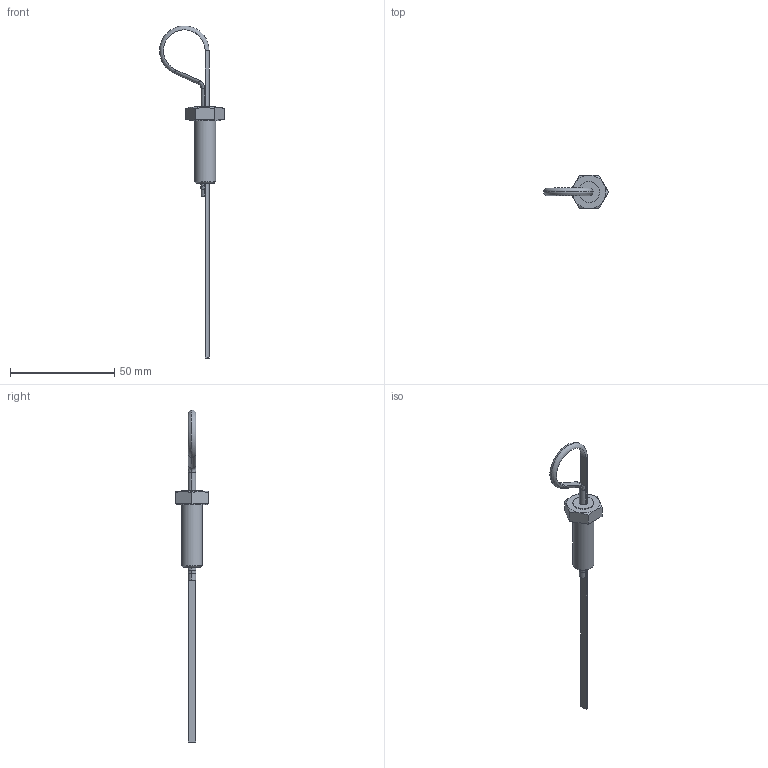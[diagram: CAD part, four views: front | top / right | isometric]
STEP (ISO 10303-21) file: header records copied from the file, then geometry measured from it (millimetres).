
FILE_DESCRIPTION((''),'2;1');
FILE_NAME('U:\Users\a.heinl\12170300.stp','2013-05-23T08:43:50',( 'User'),('SDRC'),'I-DEAS Master Series 9','UNIX','Yes');
FILE_SCHEMA(('AUTOMOTIVE_DESIGN { 1 0 10303 214 1 1 1 1 }'));
Length unit declared in the file: millimetre
Products named in the file (1): 12170300(319186)
Bounding box: 31.1 x 16.02 x 158.99 mm (x, y, z)
Volume: 4804.1 mm3; surface area: 3504.3 mm2
Topology: 1 solids, 1 shells, 47 faces, 113 edges, 79 vertices
Faces by surface type: bspline 47
Entity records: 1557 total; most frequent: CARTESIAN_POINT 873, ORIENTED_EDGE 208, EDGE_CURVE 104, VERTEX_POINT 64, EDGE_LOOP 54, FACE_OUTER_BOUND 47, ADVANCED_FACE 47, QUASI_UNIFORM_CURVE 29
